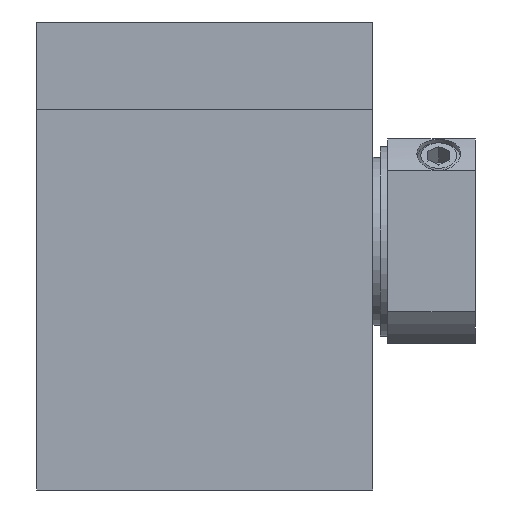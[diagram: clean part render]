
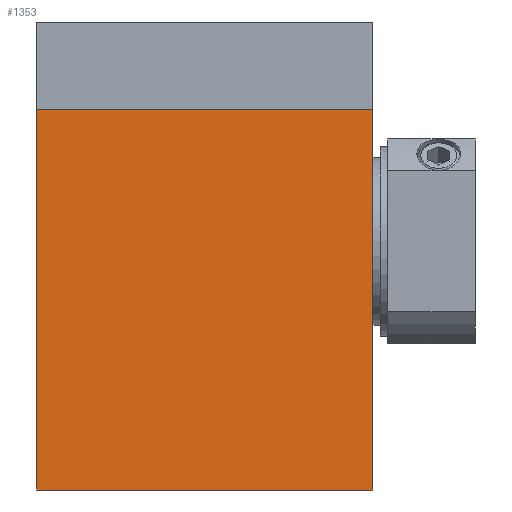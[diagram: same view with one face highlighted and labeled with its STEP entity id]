
A CAD part, front view. The second image highlights one B-rep face of the part: STEP entity #1353.
In plain terms, the highlighted planar face has unit normal (0, -1, 0).
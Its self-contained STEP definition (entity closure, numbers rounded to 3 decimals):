
#1099=CARTESIAN_POINT('',(-23.,-26.,-17.));
#1100=VERTEX_POINT('',#1099);
#1117=CARTESIAN_POINT('',(0.0,-26.,-17.));
#1118=VERTEX_POINT('',#1117);
#1125=CARTESIAN_POINT('',(0.0,-26.,-17.));
#1126=DIRECTION('',(-1.0,0.0,0.0));
#1127=VECTOR('',#1126,23.);
#1128=LINE('',#1125,#1127);
#1129=EDGE_CURVE('',#1118,#1100,#1128,.T.);
#1303=CARTESIAN_POINT('',(-23.,-26.0,9.));
#1304=VERTEX_POINT('',#1303);
#1311=CARTESIAN_POINT('',(0.0,-26.0,9.));
#1312=VERTEX_POINT('',#1311);
#1313=CARTESIAN_POINT('',(0.0,-26.0,9.));
#1314=DIRECTION('',(-1.0,0.0,0.0));
#1315=VECTOR('',#1314,23.);
#1316=LINE('',#1313,#1315);
#1317=EDGE_CURVE('',#1312,#1304,#1316,.T.);
#1332=CARTESIAN_POINT('',(0.0,-26.0,9.));
#1333=DIRECTION('',(0.0,-1.0,0.0));
#1334=DIRECTION('',(0.0,0.0,-1.0));
#1335=AXIS2_PLACEMENT_3D('',#1332,#1333,#1334);
#1336=PLANE('',#1335);
#1337=CARTESIAN_POINT('',(-23.,-26.0,9.));
#1338=DIRECTION('',(0.0,0.0,-1.0));
#1339=VECTOR('',#1338,26.);
#1340=LINE('',#1337,#1339);
#1341=EDGE_CURVE('',#1304,#1100,#1340,.T.);
#1342=ORIENTED_EDGE('',*,*,#1341,.T.);
#1343=ORIENTED_EDGE('',*,*,#1129,.F.);
#1344=CARTESIAN_POINT('',(0.0,-26.0,9.));
#1345=DIRECTION('',(0.0,0.0,-1.0));
#1346=VECTOR('',#1345,26.);
#1347=LINE('',#1344,#1346);
#1348=EDGE_CURVE('',#1312,#1118,#1347,.T.);
#1349=ORIENTED_EDGE('',*,*,#1348,.F.);
#1350=ORIENTED_EDGE('',*,*,#1317,.T.);
#1351=EDGE_LOOP('',(#1342,#1343,#1349,#1350));
#1352=FACE_OUTER_BOUND('',#1351,.T.);
#1353=ADVANCED_FACE('',(#1352),#1336,.T.);
